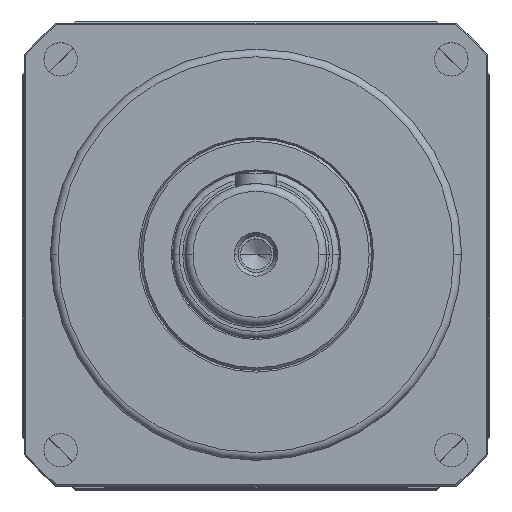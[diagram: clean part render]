
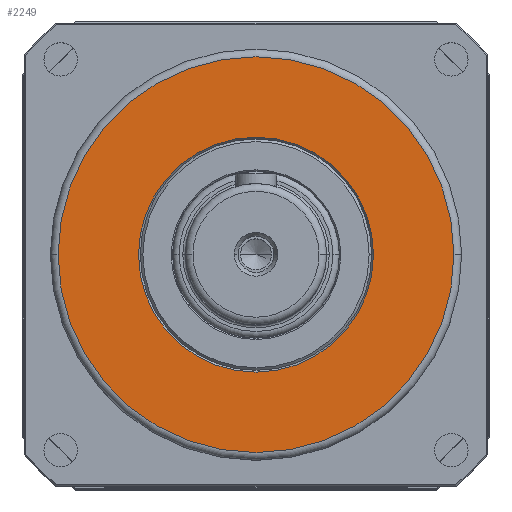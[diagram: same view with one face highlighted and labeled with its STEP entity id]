
A CAD part, top view. The second image highlights one B-rep face of the part: STEP entity #2249.
In plain terms, the highlighted planar face has unit normal (0, 0, 1).
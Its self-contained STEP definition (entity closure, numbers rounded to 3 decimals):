
#1009 = AXIS2_PLACEMENT_3D ( 'NONE', #17881, #19653, #1469 ) ;
#1118 = CIRCLE ( 'NONE', #4940, 77. ) ;
#1126 = CARTESIAN_POINT ( 'NONE',  ( -77., 0., 20. ) ) ;
#1374 = EDGE_CURVE ( 'NONE', #19601, #15491, #13054, .T. ) ;
#1431 = ORIENTED_EDGE ( 'NONE', *, *, #8796, .T. ) ;
#1469 = DIRECTION ( 'NONE',  ( 1., 0., 0. ) ) ;
#1647 = DIRECTION ( 'NONE',  ( 0., 0., -1. ) ) ;
#2017 = DIRECTION ( 'NONE',  ( 1., 0., 0. ) ) ;
#2249 = ADVANCED_FACE ( 'NONE', ( #19003, #18907 ), #15837, .T. ) ;
#4195 = VERTEX_POINT ( 'NONE', #7389 ) ;
#4269 = DIRECTION ( 'NONE',  ( 0., 0., 1. ) ) ;
#4428 = VERTEX_POINT ( 'NONE', #1126 ) ;
#4801 = AXIS2_PLACEMENT_3D ( 'NONE', #13565, #1647, #12180 ) ;
#4940 = AXIS2_PLACEMENT_3D ( 'NONE', #10514, #4269, #13207 ) ;
#4965 = CARTESIAN_POINT ( 'NONE',  ( 0., 0., 20. ) ) ;
#4973 = EDGE_LOOP ( 'NONE', ( #1431, #5844 ) ) ;
#5844 = ORIENTED_EDGE ( 'NONE', *, *, #1374, .T. ) ;
#6240 = EDGE_CURVE ( 'NONE', #4195, #4428, #1118, .T. ) ;
#6810 = CARTESIAN_POINT ( 'NONE',  ( 0., 0., 20. ) ) ;
#6833 = ORIENTED_EDGE ( 'NONE', *, *, #6240, .T. ) ;
#7389 = CARTESIAN_POINT ( 'NONE',  ( 77., 0., 20. ) ) ;
#7935 = DIRECTION ( 'NONE',  ( 1., 0., 0. ) ) ;
#8700 = EDGE_CURVE ( 'NONE', #4428, #4195, #9573, .T. ) ;
#8796 = EDGE_CURVE ( 'NONE', #15491, #19601, #14365, .T. ) ;
#9573 = CIRCLE ( 'NONE', #1009, 77. ) ;
#10144 = ORIENTED_EDGE ( 'NONE', *, *, #8700, .T. ) ;
#10514 = CARTESIAN_POINT ( 'NONE',  ( 0., 0., 20. ) ) ;
#11460 = DIRECTION ( 'NONE',  ( 0., 0., 1. ) ) ;
#12180 = DIRECTION ( 'NONE',  ( 1., 0., 0. ) ) ;
#13054 = CIRCLE ( 'NONE', #4801, 45.7 ) ;
#13087 = AXIS2_PLACEMENT_3D ( 'NONE', #4965, #16996, #7935 ) ;
#13207 = DIRECTION ( 'NONE',  ( 1., 0., 0. ) ) ;
#13279 = CARTESIAN_POINT ( 'NONE',  ( -45.7, 0., 20. ) ) ;
#13565 = CARTESIAN_POINT ( 'NONE',  ( 0., 0., 20. ) ) ;
#14329 = EDGE_LOOP ( 'NONE', ( #6833, #10144 ) ) ;
#14365 = CIRCLE ( 'NONE', #13087, 45.7 ) ;
#15491 = VERTEX_POINT ( 'NONE', #16540 ) ;
#15837 = PLANE ( 'NONE',  #17764 ) ;
#16540 = CARTESIAN_POINT ( 'NONE',  ( 45.7, 0., 20. ) ) ;
#16996 = DIRECTION ( 'NONE',  ( 0., 0., -1. ) ) ;
#17764 = AXIS2_PLACEMENT_3D ( 'NONE', #6810, #11460, #2017 ) ;
#17881 = CARTESIAN_POINT ( 'NONE',  ( 0., 0., 20. ) ) ;
#18907 = FACE_OUTER_BOUND ( 'NONE', #14329, .T. ) ;
#19003 = FACE_BOUND ( 'NONE', #4973, .T. ) ;
#19601 = VERTEX_POINT ( 'NONE', #13279 ) ;
#19653 = DIRECTION ( 'NONE',  ( 0., 0., 1. ) ) ;
